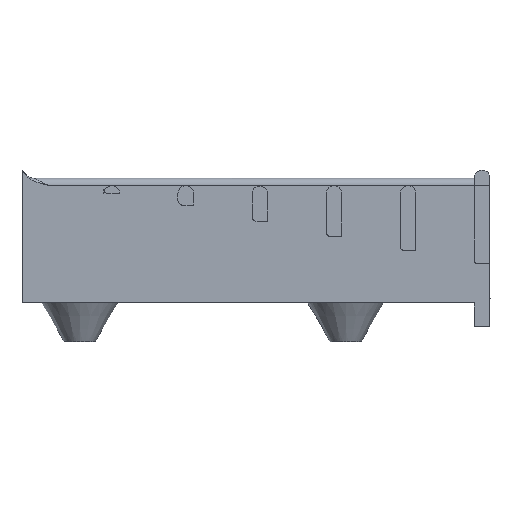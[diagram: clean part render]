
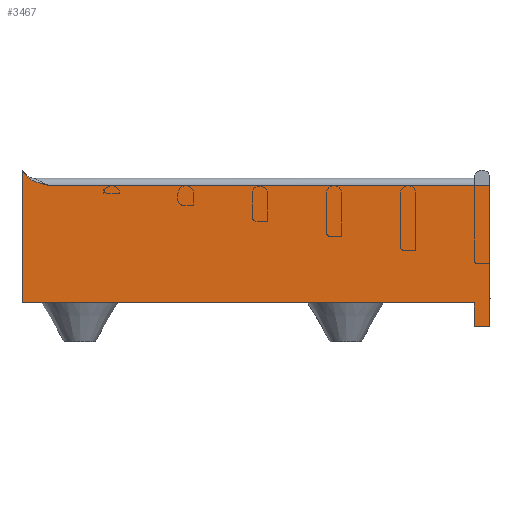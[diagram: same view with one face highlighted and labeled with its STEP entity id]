
A CAD part, left-side view. The second image highlights one B-rep face of the part: STEP entity #3467.
In plain terms, the highlighted planar face has unit normal (-1, 0, 0).
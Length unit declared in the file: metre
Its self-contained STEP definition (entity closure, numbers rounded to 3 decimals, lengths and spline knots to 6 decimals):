
#57=B_SPLINE_CURVE_WITH_KNOTS('',3,(#6063,#6064,#6065,#6066,#6067,#6068),
 .UNSPECIFIED.,.F.,.F.,(4,1,1,4),(0.,0.001656,
0.003312,0.006625),.UNSPECIFIED.);
#258=PLANE('',#3999);
#461=LINE('',#5717,#742);
#474=LINE('',#5788,#755);
#514=LINE('',#6006,#795);
#527=LINE('',#6061,#808);
#528=LINE('',#6069,#809);
#529=LINE('',#6071,#810);
#530=LINE('',#6073,#811);
#742=VECTOR('',#4705,1.);
#755=VECTOR('',#4744,1.);
#795=VECTOR('',#4882,1.);
#808=VECTOR('',#4927,1.);
#809=VECTOR('',#4930,1.);
#810=VECTOR('',#4931,1.);
#811=VECTOR('',#4932,1.);
#1526=ORIENTED_EDGE('',*,*,#2224,.T.);
#1527=ORIENTED_EDGE('',*,*,#2250,.T.);
#1528=ORIENTED_EDGE('',*,*,#2143,.T.);
#1529=ORIENTED_EDGE('',*,*,#2249,.F.);
#1530=ORIENTED_EDGE('',*,*,#2119,.F.);
#1531=ORIENTED_EDGE('',*,*,#2251,.T.);
#1532=ORIENTED_EDGE('',*,*,#2252,.F.);
#1533=ORIENTED_EDGE('',*,*,#2253,.T.);
#2119=EDGE_CURVE('',#2538,#2539,#461,.T.);
#2143=EDGE_CURVE('',#2560,#2559,#474,.T.);
#2224=EDGE_CURVE('',#2624,#2623,#514,.T.);
#2249=EDGE_CURVE('',#2539,#2559,#527,.T.);
#2250=EDGE_CURVE('',#2623,#2560,#57,.F.);
#2251=EDGE_CURVE('',#2538,#2642,#528,.T.);
#2252=EDGE_CURVE('',#2643,#2642,#529,.T.);
#2253=EDGE_CURVE('',#2643,#2624,#530,.T.);
#2538=VERTEX_POINT('',#5716);
#2539=VERTEX_POINT('',#5718);
#2559=VERTEX_POINT('',#5787);
#2560=VERTEX_POINT('',#5789);
#2623=VERTEX_POINT('',#6005);
#2624=VERTEX_POINT('',#6007);
#2642=VERTEX_POINT('',#6070);
#2643=VERTEX_POINT('',#6072);
#2972=EDGE_LOOP('',(#1526,#1527,#1528,#1529,#1530,#1531,#1532,#1533));
#3189=FACE_BOUND('',#2972,.T.);
#3467=ADVANCED_FACE('',(#3189),#258,.T.);
#3999=AXIS2_PLACEMENT_3D('',#6062,#4928,#4929);
#4705=DIRECTION('',(0.,1.,0.));
#4744=DIRECTION('',(0.,0.621,0.784));
#4882=DIRECTION('',(0.,1.,0.));
#4927=DIRECTION('',(0.,0.,1.));
#4928=DIRECTION('',(-1.,0.,0.));
#4929=DIRECTION('',(0.,0.,1.));
#4930=DIRECTION('',(0.,0.,-1.));
#4931=DIRECTION('',(0.,1.,0.));
#4932=DIRECTION('',(0.,0.,1.));
#5716=CARTESIAN_POINT('',(-0.047684,-0.116,-0.020333));
#5717=CARTESIAN_POINT('',(-0.047684,-0.12,-0.020333));
#5718=CARTESIAN_POINT('',(-0.047684,0.,-0.020333));
#5787=CARTESIAN_POINT('',(-0.047684,0.,0.013735));
#5788=CARTESIAN_POINT('',(-0.047684,-0.001947,0.01128));
#5789=CARTESIAN_POINT('',(-0.047684,-0.001052,0.012409));
#6005=CARTESIAN_POINT('',(-0.047684,-0.007001,0.009735));
#6006=CARTESIAN_POINT('',(-0.047684,-0.12,0.009735));
#6007=CARTESIAN_POINT('',(-0.047684,-0.12,0.009735));
#6061=CARTESIAN_POINT('',(-0.047684,0.,-0.004299));
#6062=CARTESIAN_POINT('',(-0.047684,-0.12,-0.004299));
#6063=CARTESIAN_POINT('',(-0.047684,-0.001052,0.012409));
#6064=CARTESIAN_POINT('',(-0.047684,-0.0014,0.01197));
#6065=CARTESIAN_POINT('',(-0.047684,-0.002272,0.011263));
#6066=CARTESIAN_POINT('',(-0.047684,-0.004302,0.010387));
#6067=CARTESIAN_POINT('',(-0.047684,-0.00593,0.010001));
#6068=CARTESIAN_POINT('',(-0.047684,-0.007001,0.009735));
#6069=CARTESIAN_POINT('',(-0.047684,-0.116,-0.004299));
#6070=CARTESIAN_POINT('',(-0.047684,-0.116,-0.026333));
#6071=CARTESIAN_POINT('',(-0.047684,-0.12,-0.026333));
#6072=CARTESIAN_POINT('',(-0.047684,-0.12,-0.026333));
#6073=CARTESIAN_POINT('',(-0.047684,-0.12,-0.004299));
